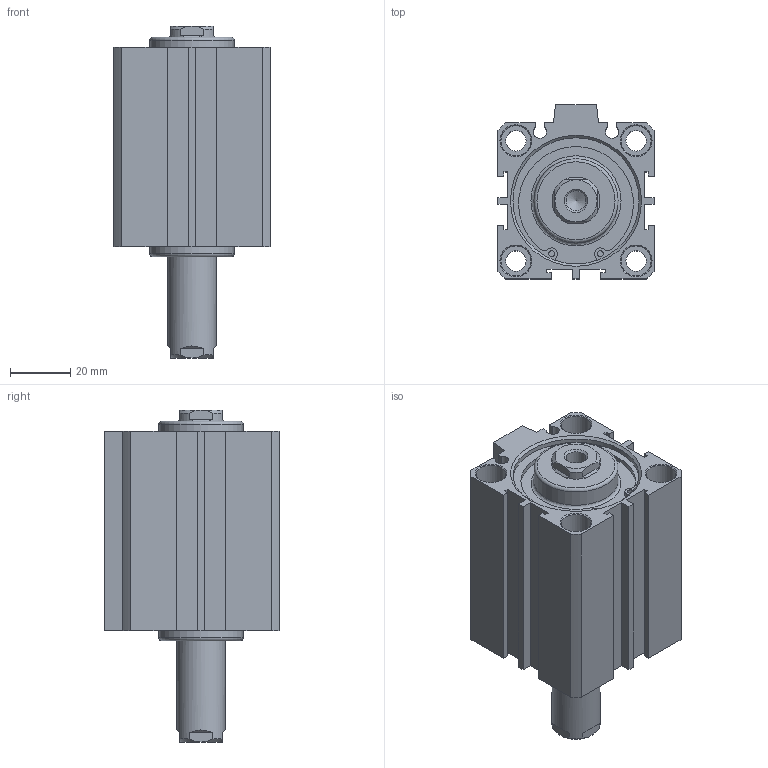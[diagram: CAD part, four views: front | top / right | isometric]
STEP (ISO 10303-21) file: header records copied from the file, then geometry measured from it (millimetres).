
FILE_DESCRIPTION((''),'2;1');
FILE_NAME('I:\3D電子目錄\氣缸\JDD\JDD-S\JDD40-S\JDD40x30-S.stp','2007-02-09T08:33:11',('662F206'),(''),'Autodesk Inventor 10','Autodesk Inventor 10','');
FILE_SCHEMA(('AUTOMOTIVE_DESIGN { 1 0 10303 214 1 1 1 1 }'));
Length unit declared in the file: millimetre
Products named in the file (3): JDD40-S; R 形環 42
Assembly tree (3 placements, depth 2):
  JDD40-S
    JDD40-S
    R 形環 42  x2
Bounding box: 52 x 58 x 110.5 mm (x, y, z)
Volume: 163153 mm3; surface area: 38698.6 mm2
Topology: 3 solids, 3 shells, 179 faces, 431 edges, 280 vertices
Faces by surface type: plane 98, cylinder 49, cone 24, bspline 6, torus 2
Full cylindrical faces by diameter (mm): 1.9 x4, 2.2 x2, 6.8 x4, 10 x8, 16 x1, 28 x2, 42 x4, 44.5 x2
Entity records: 4755 total; most frequent: CARTESIAN_POINT 955, DIRECTION 792, ORIENTED_EDGE 686, EDGE_CURVE 343, AXIS2_PLACEMENT_3D 298, VERTEX_POINT 251, EDGE_LOOP 250, VECTOR 196
